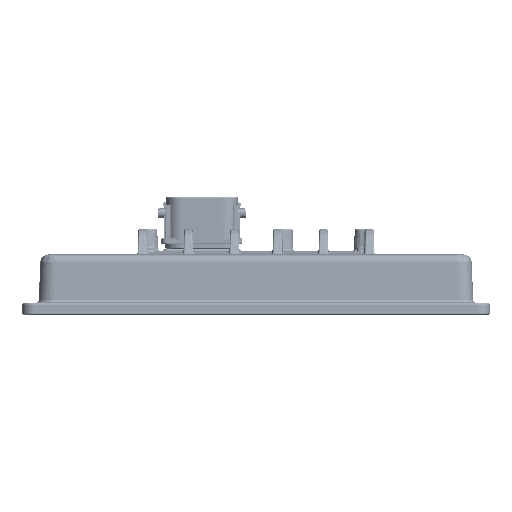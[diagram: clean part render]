
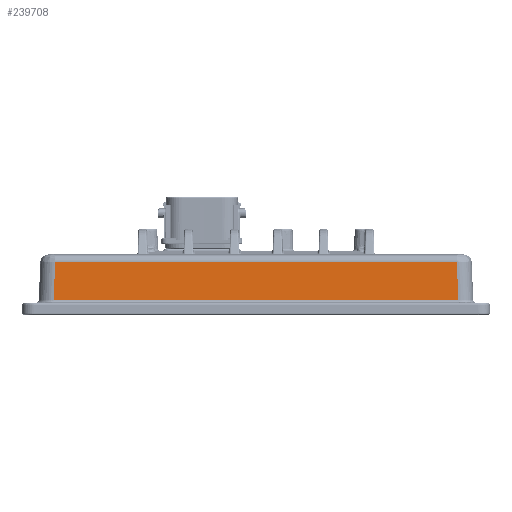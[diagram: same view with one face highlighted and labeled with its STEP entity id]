
A CAD part, left-side view. The second image highlights one B-rep face of the part: STEP entity #239708.
In plain terms, the highlighted planar face has unit normal (-0.999, 0, 0.044).
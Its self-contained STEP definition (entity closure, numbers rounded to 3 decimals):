
#30943=LINE('',#638920,#46555);
#30953=LINE('',#639114,#46565);
#30955=LINE('',#639151,#46567);
#30956=LINE('',#639152,#46568);
#46555=VECTOR('',#320339,10.);
#46565=VECTOR('',#320397,10.);
#46567=VECTOR('',#320407,10.);
#46568=VECTOR('',#320408,10.);
#55418=PLANE('',#261435);
#68975=FACE_OUTER_BOUND('',#82950,.T.);
#82950=EDGE_LOOP('',(#212504,#212505,#212506,#212507));
#111351=VERTEX_POINT('',#638914);
#111352=VERTEX_POINT('',#638918);
#111361=VERTEX_POINT('',#639108);
#111362=VERTEX_POINT('',#639112);
#145064=EDGE_CURVE('',#111352,#111351,#30943,.T.);
#145089=EDGE_CURVE('',#111362,#111361,#30953,.T.);
#145093=EDGE_CURVE('',#111361,#111352,#30955,.T.);
#145094=EDGE_CURVE('',#111351,#111362,#30956,.T.);
#212504=ORIENTED_EDGE('',*,*,#145064,.F.);
#212505=ORIENTED_EDGE('',*,*,#145093,.F.);
#212506=ORIENTED_EDGE('',*,*,#145089,.F.);
#212507=ORIENTED_EDGE('',*,*,#145094,.F.);
#239708=ADVANCED_FACE('',(#68975),#55418,.T.);
#261435=AXIS2_PLACEMENT_3D('',#639150,#320405,#320406);
#320339=DIRECTION('',(0.,-1.,0.));
#320397=DIRECTION('',(0.,1.,0.));
#320405=DIRECTION('center_axis',(-0.999,0.,
0.044));
#320406=DIRECTION('ref_axis',(0.044,0.,0.999));
#320407=DIRECTION('',(0.044,-0.044,0.998));
#320408=DIRECTION('',(-0.044,-0.044,-0.998));
#638914=CARTESIAN_POINT('',(82.49,-201.067,10.037));
#638918=CARTESIAN_POINT('',(82.49,-52.534,10.037));
#638920=CARTESIAN_POINT('',(82.49,-167.007,10.037));
#639108=CARTESIAN_POINT('',(81.88,-51.924,-3.937));
#639112=CARTESIAN_POINT('',(81.88,-201.677,-3.937));
#639114=CARTESIAN_POINT('',(81.88,-167.007,-3.937));
#639150=CARTESIAN_POINT('Origin',(81.838,-207.214,-4.894));
#639151=CARTESIAN_POINT('',(81.98,-52.025,-1.635));
#639152=CARTESIAN_POINT('',(82.055,-201.502,0.083));
